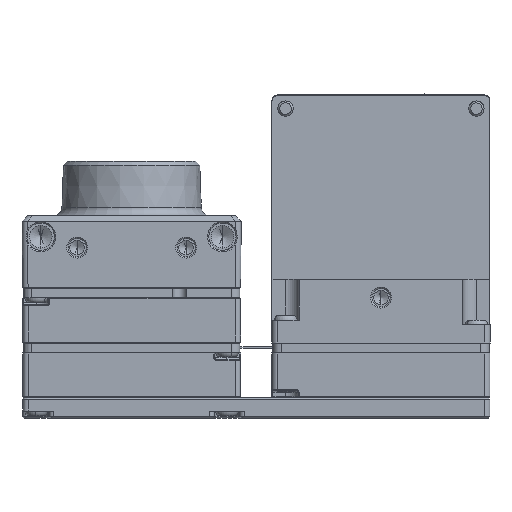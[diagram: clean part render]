
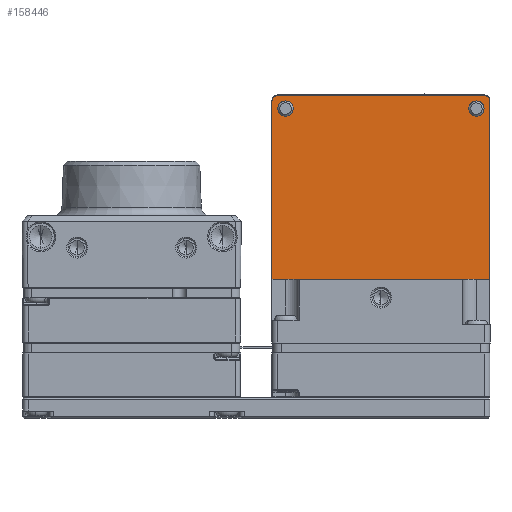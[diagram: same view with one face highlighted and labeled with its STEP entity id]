
A CAD part, front view. The second image highlights one B-rep face of the part: STEP entity #158446.
In plain terms, the highlighted planar face has unit normal (0, -1, 0).
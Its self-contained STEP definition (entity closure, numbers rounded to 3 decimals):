
#437 = CARTESIAN_POINT ( 'NONE',  ( 38.85, 6.5, 21.2 ) ) ;
#1700 = CARTESIAN_POINT ( 'NONE',  ( 15.45, 6.5, 20.6 ) ) ;
#2938 = CIRCLE ( 'NONE', #148319, 0.85 ) ;
#6401 = VERTEX_POINT ( 'NONE', #1700 ) ;
#7919 = EDGE_CURVE ( 'NONE', #130769, #53310, #150414, .T. ) ;
#8792 = DIRECTION ( 'NONE',  ( 0., -1., 0. ) ) ;
#12535 = EDGE_CURVE ( 'NONE', #26453, #114096, #80550, .T. ) ;
#13131 = LINE ( 'NONE', #92205, #56298 ) ;
#15650 = ORIENTED_EDGE ( 'NONE', *, *, #12535, .F. ) ;
#19152 = ORIENTED_EDGE ( 'NONE', *, *, #122616, .T. ) ;
#22280 = DIRECTION ( 'NONE',  ( 0., 0., 1. ) ) ;
#26453 = VERTEX_POINT ( 'NONE', #145307 ) ;
#27441 = ORIENTED_EDGE ( 'NONE', *, *, #33311, .F. ) ;
#27821 = LINE ( 'NONE', #78528, #88358 ) ;
#29441 = DIRECTION ( 'NONE',  ( 0., 0., 1. ) ) ;
#33311 = EDGE_CURVE ( 'NONE', #131612, #169281, #27821, .T. ) ;
#34542 = ORIENTED_EDGE ( 'NONE', *, *, #43154, .F. ) ;
#34575 = CARTESIAN_POINT ( 'NONE',  ( 38.85, 6.5, 20.6 ) ) ;
#35034 = EDGE_LOOP ( 'NONE', ( #102716, #79207 ) ) ;
#37419 = CARTESIAN_POINT ( 'NONE',  ( 27.45, 6.5, -2.5 ) ) ;
#39431 = CARTESIAN_POINT ( 'NONE',  ( 16.05, 6.5, 20.6 ) ) ;
#39752 = DIRECTION ( 'NONE',  ( 0., -1., 0. ) ) ;
#42634 = DIRECTION ( 'NONE',  ( 0., 0., 1. ) ) ;
#43154 = EDGE_CURVE ( 'NONE', #53310, #130769, #2938, .T. ) ;
#45225 = EDGE_CURVE ( 'NONE', #46766, #85105, #151264, .T. ) ;
#46187 = CARTESIAN_POINT ( 'NONE',  ( 16.95, 6.5, 19.8 ) ) ;
#46766 = VERTEX_POINT ( 'NONE', #129639 ) ;
#50417 = ORIENTED_EDGE ( 'NONE', *, *, #107859, .T. ) ;
#51367 = DIRECTION ( 'NONE',  ( 1., 0., 0. ) ) ;
#52764 = ORIENTED_EDGE ( 'NONE', *, *, #142672, .F. ) ;
#53310 = VERTEX_POINT ( 'NONE', #154026 ) ;
#56298 = VECTOR ( 'NONE', #29441, 1000. ) ;
#57207 = DIRECTION ( 'NONE',  ( 0., -1., 0. ) ) ;
#60820 = DIRECTION ( 'NONE',  ( 0., 0., 1. ) ) ;
#64913 = CIRCLE ( 'NONE', #122524, 0.85 ) ;
#73136 = DIRECTION ( 'NONE',  ( 0., -1., 0. ) ) ;
#76958 = DIRECTION ( 'NONE',  ( 0., 0., 1. ) ) ;
#78528 = CARTESIAN_POINT ( 'NONE',  ( 39.45, 6.5, -2.8 ) ) ;
#79207 = ORIENTED_EDGE ( 'NONE', *, *, #97362, .F. ) ;
#80550 = LINE ( 'NONE', #169052, #122587 ) ;
#80875 = CIRCLE ( 'NONE', #102794, 0.6 ) ;
#84304 = DIRECTION ( 'NONE',  ( 0., 0., 1. ) ) ;
#84779 = FACE_BOUND ( 'NONE', #152187, .T. ) ;
#85079 = AXIS2_PLACEMENT_3D ( 'NONE', #39431, #57207, #42634 ) ;
#85105 = VERTEX_POINT ( 'NONE', #90308 ) ;
#88358 = VECTOR ( 'NONE', #92274, 1000. ) ;
#88984 = AXIS2_PLACEMENT_3D ( 'NONE', #37419, #152609, #76958 ) ;
#90308 = CARTESIAN_POINT ( 'NONE',  ( 16.95, 6.5, 20.65 ) ) ;
#90570 = CIRCLE ( 'NONE', #85079, 0.6 ) ;
#91866 = VECTOR ( 'NONE', #104688, 1000. ) ;
#92205 = CARTESIAN_POINT ( 'NONE',  ( 15.45, 6.5, -2.8 ) ) ;
#92274 = DIRECTION ( 'NONE',  ( 0., 0., -1. ) ) ;
#94568 = DIRECTION ( 'NONE',  ( 0., -1., 0. ) ) ;
#97362 = EDGE_CURVE ( 'NONE', #85105, #46766, #64913, .T. ) ;
#100906 = CARTESIAN_POINT ( 'NONE',  ( 39.45, 6.5, 1. ) ) ;
#102704 = FACE_BOUND ( 'NONE', #35034, .T. ) ;
#102716 = ORIENTED_EDGE ( 'NONE', *, *, #45225, .F. ) ;
#102794 = AXIS2_PLACEMENT_3D ( 'NONE', #34575, #8792, #166023 ) ;
#103828 = LINE ( 'NONE', #140884, #91866 ) ;
#104576 = AXIS2_PLACEMENT_3D ( 'NONE', #46187, #94568, #60820 ) ;
#104688 = DIRECTION ( 'NONE',  ( 1., 0., 0. ) ) ;
#107859 = EDGE_CURVE ( 'NONE', #151935, #169281, #103828, .T. ) ;
#108996 = EDGE_CURVE ( 'NONE', #131612, #114096, #80875, .T. ) ;
#111764 = CARTESIAN_POINT ( 'NONE',  ( 16.95, 6.5, 19.8 ) ) ;
#114096 = VERTEX_POINT ( 'NONE', #437 ) ;
#120169 = AXIS2_PLACEMENT_3D ( 'NONE', #126259, #125380, #22280 ) ;
#122524 = AXIS2_PLACEMENT_3D ( 'NONE', #111764, #73136, #84304 ) ;
#122587 = VECTOR ( 'NONE', #51367, 1000. ) ;
#122616 = EDGE_CURVE ( 'NONE', #26453, #6401, #90570, .T. ) ;
#125380 = DIRECTION ( 'NONE',  ( 0., -1., 0. ) ) ;
#126037 = EDGE_LOOP ( 'NONE', ( #15650, #19152, #52764, #50417, #27441, #127054 ) ) ;
#126259 = CARTESIAN_POINT ( 'NONE',  ( 37.95, 6.5, 19.8 ) ) ;
#127054 = ORIENTED_EDGE ( 'NONE', *, *, #108996, .T. ) ;
#128372 = CARTESIAN_POINT ( 'NONE',  ( 37.95, 6.5, 20.65 ) ) ;
#129128 = CARTESIAN_POINT ( 'NONE',  ( 37.95, 6.5, 19.8 ) ) ;
#129639 = CARTESIAN_POINT ( 'NONE',  ( 16.95, 6.5, 18.95 ) ) ;
#130161 = FACE_OUTER_BOUND ( 'NONE', #126037, .T. ) ;
#130769 = VERTEX_POINT ( 'NONE', #128372 ) ;
#131575 = CARTESIAN_POINT ( 'NONE',  ( 15.45, 6.5, 1. ) ) ;
#131612 = VERTEX_POINT ( 'NONE', #154480 ) ;
#140884 = CARTESIAN_POINT ( 'NONE',  ( 27.45, 6.5, 1. ) ) ;
#142672 = EDGE_CURVE ( 'NONE', #151935, #6401, #13131, .T. ) ;
#144554 = DIRECTION ( 'NONE',  ( 0., 0., 1. ) ) ;
#145307 = CARTESIAN_POINT ( 'NONE',  ( 16.05, 6.5, 21.2 ) ) ;
#148319 = AXIS2_PLACEMENT_3D ( 'NONE', #129128, #39752, #144554 ) ;
#150414 = CIRCLE ( 'NONE', #120169, 0.85 ) ;
#151264 = CIRCLE ( 'NONE', #104576, 0.85 ) ;
#151935 = VERTEX_POINT ( 'NONE', #131575 ) ;
#152187 = EDGE_LOOP ( 'NONE', ( #34542, #168964 ) ) ;
#152609 = DIRECTION ( 'NONE',  ( 0., -1., 0. ) ) ;
#154026 = CARTESIAN_POINT ( 'NONE',  ( 37.95, 6.5, 18.95 ) ) ;
#154480 = CARTESIAN_POINT ( 'NONE',  ( 39.45, 6.5, 20.6 ) ) ;
#155127 = PLANE ( 'NONE',  #88984 ) ;
#158446 = ADVANCED_FACE ( 'NONE', ( #84779, #102704, #130161 ), #155127, .T. ) ;
#166023 = DIRECTION ( 'NONE',  ( 0., 0., 1. ) ) ;
#168964 = ORIENTED_EDGE ( 'NONE', *, *, #7919, .F. ) ;
#169052 = CARTESIAN_POINT ( 'NONE',  ( 39.45, 6.5, 21.2 ) ) ;
#169281 = VERTEX_POINT ( 'NONE', #100906 ) ;
